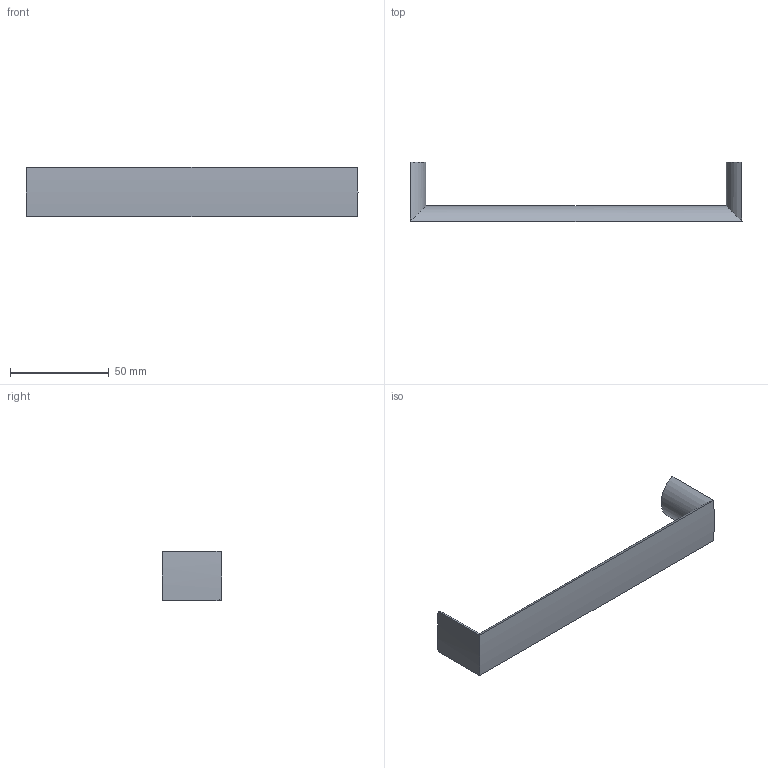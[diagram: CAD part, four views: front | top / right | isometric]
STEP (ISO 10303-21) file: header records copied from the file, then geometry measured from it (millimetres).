
FILE_DESCRIPTION( ( '' ), '1' );
FILE_NAME( 'D:/1.AUTOCAD EXPORT/Group 10/sheet_10_1/9120198.stp', '2013-10-18T05:26:23', ( '' ), ( '' ), ' ', ' ', ' ' );
FILE_SCHEMA( ( 'automotive_design' ) );
Length unit declared in the file: millimetre
Products named in the file (1): 1
Bounding box: 168 x 30 x 25 mm (x, y, z)
Volume: 30405.7 mm3; surface area: 12569.3 mm2
Topology: 1 solids, 1 shells, 14 faces, 26 edges, 16 vertices
Faces by surface type: cylinder 10, plane 4
Entity records: 700 total; most frequent: DIRECTION 72, STYLED_ITEM 57, PRESENTATION_STYLE_ASSIGNMENT 57, CARTESIAN_POINT 57, COLOUR_RGB 57, ORIENTED_EDGE 52, AXIS2_PLACEMENT_3D 31, EDGE_CURVE 26
